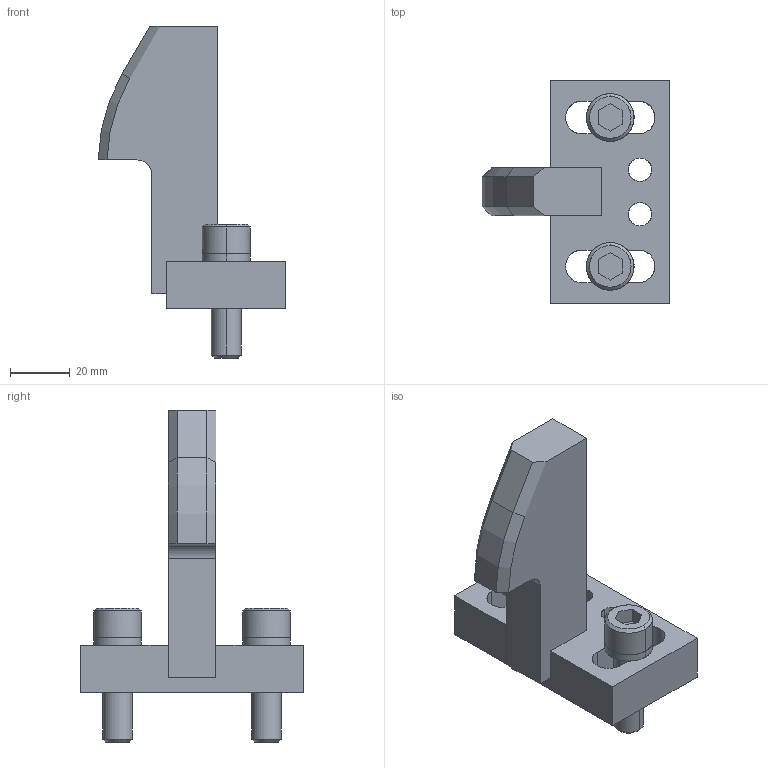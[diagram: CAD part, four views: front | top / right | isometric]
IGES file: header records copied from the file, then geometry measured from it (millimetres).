
Global section: file name: E:\UnigraphicsGraphicData\MISUMI_PRESS-PARTS\IGES\3d_ngwsa-95-30-s40-x18-y50-m10_01613_r00.igs; native system: NX V5.0; preprocessor: UGS NX IGES V5.0; author: MISUMI; date: 20110105.162127; units: millimetre
Bounding box: 62.99 x 75 x 111.5 mm (x, y, z)
Surface area: 25976.4 mm2 (no closed solid volume)
Topology: 0 solids, 0 shells, 104 faces, 671 edges, 671 vertices
Faces by surface type: bspline 104
